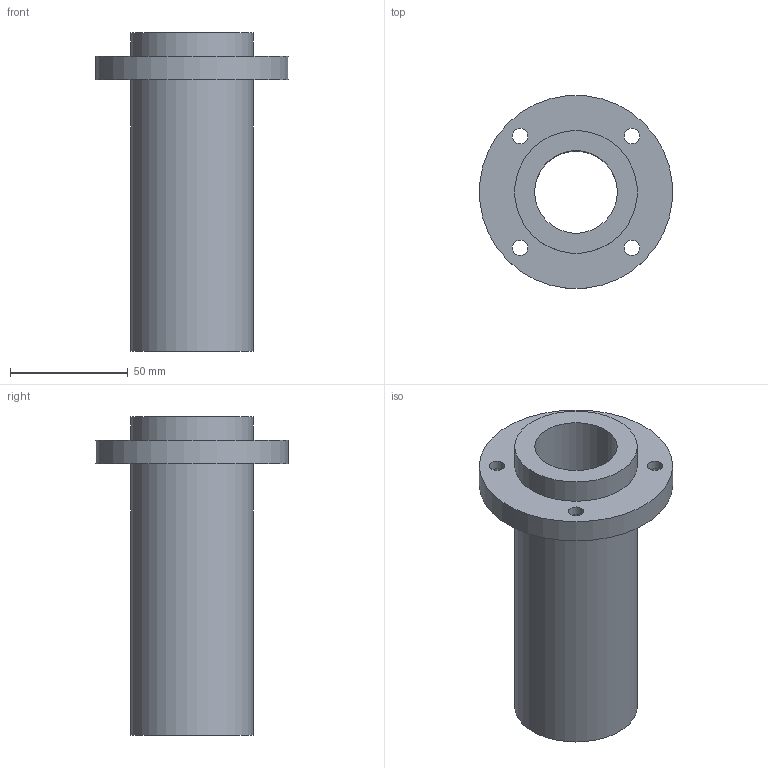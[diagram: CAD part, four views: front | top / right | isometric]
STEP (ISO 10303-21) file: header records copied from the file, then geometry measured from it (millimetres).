
FILE_DESCRIPTION(/* description */ (''),/* implementation_level */ '2;1');
FILE_NAME(/* name */ 'LMFP35LUU',/* time_stamp */ '2019-07-03T13:01:05+02:00',/* author */ ('VĂ©gh MĂˇtĂ©'),/* organization */ ('Bearing Kft'),/* preprocessor_version */ 'ST-DEVELOPER v16.7',/* originating_system */ 'DEX',/* authorisation */ $);
FILE_SCHEMA (('AUTOMOTIVE_DESIGN {1 0 10303 214 3 1 1}'));
Length unit declared in the file: millimetre
Products named in the file (1): LMFP35LUU
Bounding box: 81.69 x 81.69 x 135 mm (x, y, z)
Volume: 185528.4 mm3; surface area: 47406.9 mm2
Topology: 1 solids, 1 shells, 339 faces, 853 edges, 570 vertices
Faces by surface type: plane 262, bspline 63, cylinder 14
Full cylindrical faces by diameter (mm): 6.6 x4, 11 x4, 35 x1, 52 x2, 82 x1
Entity records: 13262 total; most frequent: CARTESIAN_POINT 5529, ORIENTED_EDGE 1672, DIRECTION 1292, EDGE_CURVE 836, LINE 682, VECTOR 682, VERTEX_POINT 566, EDGE_LOOP 416
